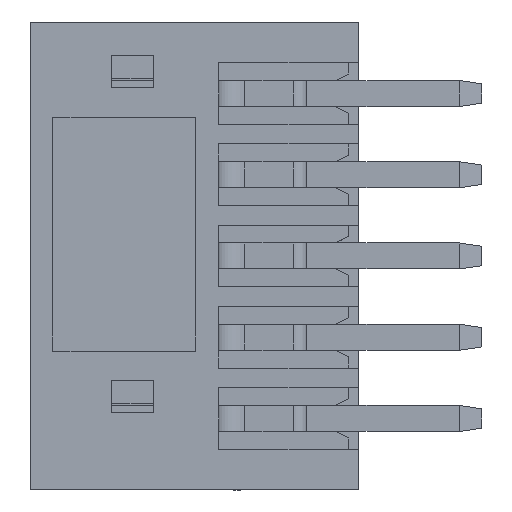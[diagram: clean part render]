
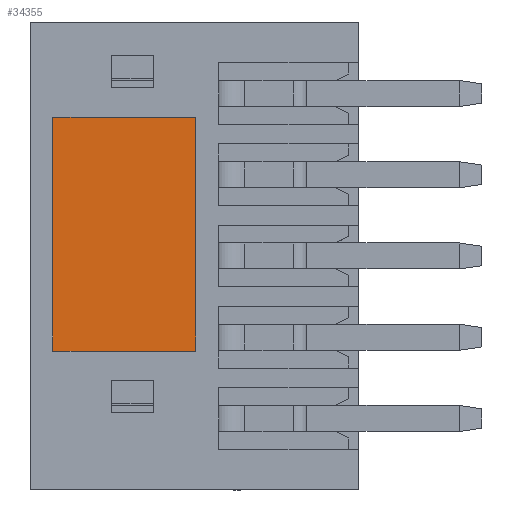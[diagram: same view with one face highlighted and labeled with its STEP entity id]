
A CAD part, left-side view. The second image highlights one B-rep face of the part: STEP entity #34355.
In plain terms, the highlighted planar face has unit normal (-1, 0, 0).
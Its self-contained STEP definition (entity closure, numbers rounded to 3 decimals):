
#4734 = CARTESIAN_POINT ( 'NONE',  ( 0.7, 9.4, -2.925 ) ) ;
#4833 = CARTESIAN_POINT ( 'NONE',  ( 0.7, 9.4, -10.125 ) ) ;
#4943 = DIRECTION ( 'NONE',  ( 0., 0., -1. ) ) ;
#5430 = CARTESIAN_POINT ( 'NONE',  ( 0.7, 5., -2.925 ) ) ;
#5622 = CARTESIAN_POINT ( 'NONE',  ( 0.7, 9.4, -10.125 ) ) ;
#6037 = CARTESIAN_POINT ( 'NONE',  ( 0.7, 9.4, -2.925 ) ) ;
#6179 = ORIENTED_EDGE ( 'NONE', *, *, #31267, .T. ) ;
#7224 = AXIS2_PLACEMENT_3D ( 'NONE', #32546, #13783, #21613 ) ;
#7885 = DIRECTION ( 'NONE',  ( 0., 0., 1. ) ) ;
#8242 = LINE ( 'NONE', #5622, #30041 ) ;
#8266 = LINE ( 'NONE', #13283, #20098 ) ;
#9201 = CARTESIAN_POINT ( 'NONE',  ( 0.7, 5., -10.125 ) ) ;
#9460 = VECTOR ( 'NONE', #27773, 1000. ) ;
#9547 = VERTEX_POINT ( 'NONE', #4734 ) ;
#10826 = ORIENTED_EDGE ( 'NONE', *, *, #33487, .T. ) ;
#12609 = ORIENTED_EDGE ( 'NONE', *, *, #14345, .T. ) ;
#13283 = CARTESIAN_POINT ( 'NONE',  ( 0.7, 5., -10.125 ) ) ;
#13560 = VERTEX_POINT ( 'NONE', #4833 ) ;
#13783 = DIRECTION ( 'NONE',  ( 1., 0., 0. ) ) ;
#14295 = FACE_OUTER_BOUND ( 'NONE', #15383, .T. ) ;
#14345 = EDGE_CURVE ( 'NONE', #19429, #31620, #21257, .T. ) ;
#14561 = LINE ( 'NONE', #6037, #9460 ) ;
#15383 = EDGE_LOOP ( 'NONE', ( #10826, #12609, #6179, #20148 ) ) ;
#18852 = DIRECTION ( 'NONE',  ( 0., -1., 0. ) ) ;
#19429 = VERTEX_POINT ( 'NONE', #9201 ) ;
#20098 = VECTOR ( 'NONE', #18852, 1000. ) ;
#20148 = ORIENTED_EDGE ( 'NONE', *, *, #30778, .T. ) ;
#21257 = LINE ( 'NONE', #5430, #34118 ) ;
#21613 = DIRECTION ( 'NONE',  ( 0., 0., -1. ) ) ;
#21788 = PLANE ( 'NONE',  #7224 ) ;
#27773 = DIRECTION ( 'NONE',  ( 0., 1., 0. ) ) ;
#30041 = VECTOR ( 'NONE', #4943, 1000. ) ;
#30778 = EDGE_CURVE ( 'NONE', #9547, #13560, #8242, .T. ) ;
#31267 = EDGE_CURVE ( 'NONE', #31620, #9547, #14561, .T. ) ;
#31620 = VERTEX_POINT ( 'NONE', #32580 ) ;
#32546 = CARTESIAN_POINT ( 'NONE',  ( 0.7, 7.2, -6.525 ) ) ;
#32580 = CARTESIAN_POINT ( 'NONE',  ( 0.7, 5., -2.925 ) ) ;
#33487 = EDGE_CURVE ( 'NONE', #13560, #19429, #8266, .T. ) ;
#34118 = VECTOR ( 'NONE', #7885, 1000. ) ;
#34355 = ADVANCED_FACE ( 'NONE', ( #14295 ), #21788, .F. ) ;
